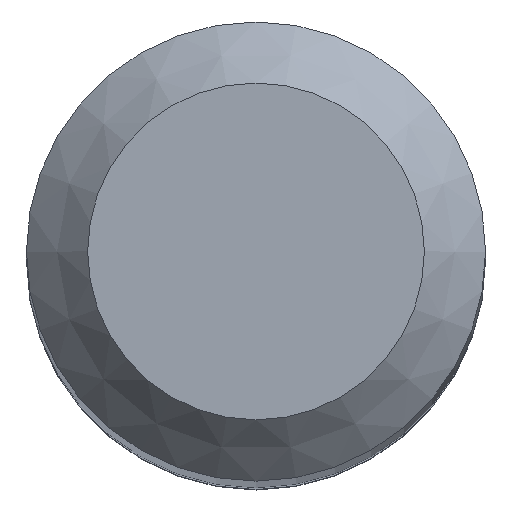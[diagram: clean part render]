
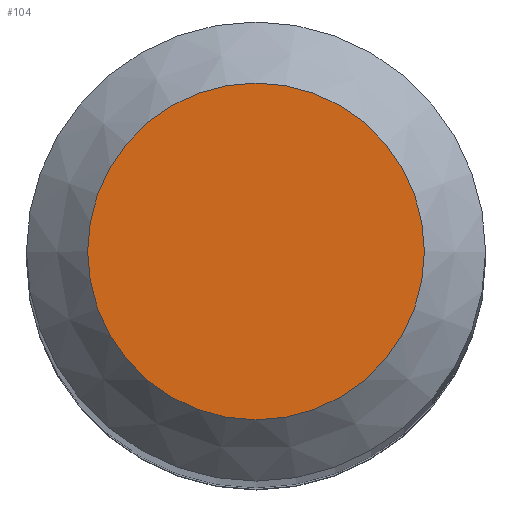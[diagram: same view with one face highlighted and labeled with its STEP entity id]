
A CAD part, top view. The second image highlights one B-rep face of the part: STEP entity #104.
In plain terms, the highlighted planar face has unit normal (0, 0, 1).
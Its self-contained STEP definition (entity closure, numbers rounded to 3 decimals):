
#88=CARTESIAN_POINT('',(2.2,0.0,70.0));
#89=DIRECTION('',(0.0,0.0,1.0));
#90=DIRECTION('',(1.0,0.0,0.0));
#91=AXIS2_PLACEMENT_3D('',#88,#89,#90);
#92=PLANE('',#91);
#93=CARTESIAN_POINT('',(-2.2,0.0,70.));
#94=VERTEX_POINT('',#93);
#95=CARTESIAN_POINT('',(0.0,0.0,70.));
#96=DIRECTION('',(0.0,0.0,-1.0));
#97=DIRECTION('',(-1.0,0.0,0.0));
#98=AXIS2_PLACEMENT_3D('',#95,#96,#97);
#99=CIRCLE('',#98,2.2);
#100=EDGE_CURVE('',#94,#94,#99,.T.);
#101=ORIENTED_EDGE('',*,*,#100,.F.);
#102=EDGE_LOOP('',(#101));
#103=FACE_OUTER_BOUND('',#102,.T.);
#104=ADVANCED_FACE('',(#103),#92,.T.);
